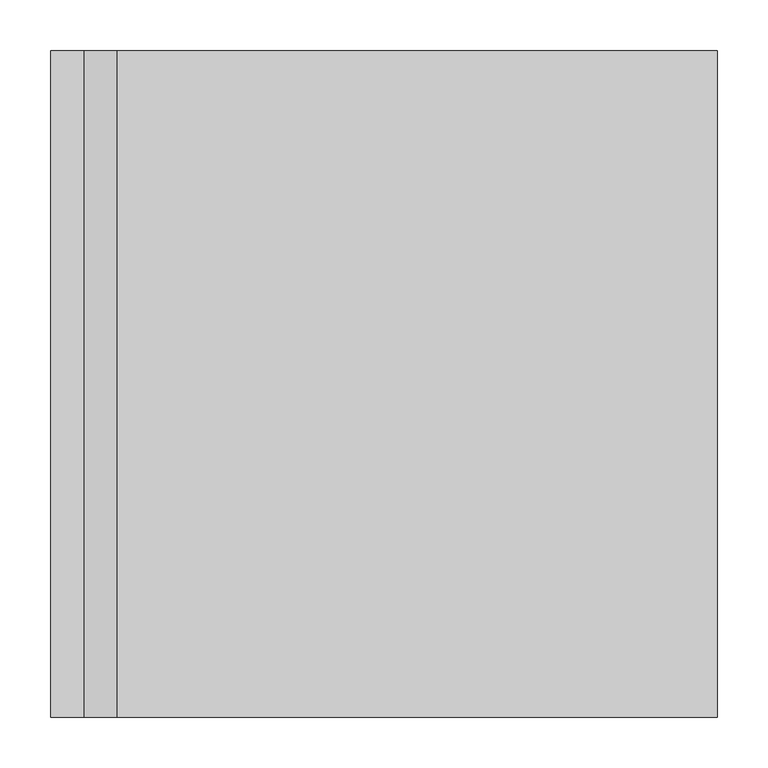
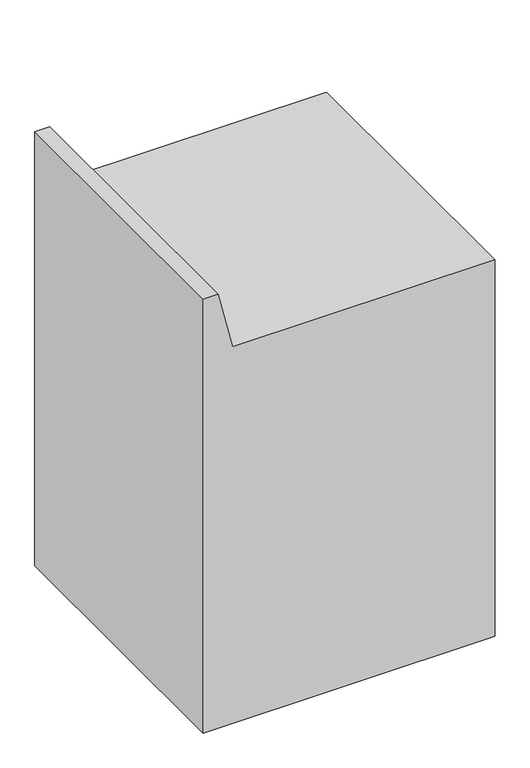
"""IFC4 building model written with IfcOpenShell, lengths in millimetres: flow terminal geometry, Lavadora CTE : 660 mm x 660 mm - Privado."""

from ifc_helpers import new_model, si_unit, frame, origin, place, context, project, spatial, polyline, outline, extrude, source, transform, mapped, element, save


def flow_terminal_59181b66(model_context):
    return source(origin(), model_context, "Body", "SweptSolid", [
        extrude(outline(polyline([(0.0, 660.0), (900.0, 660.0), (900.0, 65.88125), (1037.31875, 33.3375), (1037.31875, 0.0), (0.0, 0.0), (0.0, 660.0)])), frame((0.0, -330.0, 0.0), z_axis=(0.0, 1.0, 0.0), x_axis=(0.0, 0.0, 1.0)), (0.0, 0.0, 1.0), 660.0),
    ])


if __name__ == "__main__":
    model = new_model("IFC4")
    model_context = context("Model", 3, world=origin())
    ifc_project = project(units=[si_unit("LENGTHUNIT", "METRE", prefix="MILLI")], contexts=[model_context])
    site = spatial("IfcSite", under=ifc_project)
    building = spatial("IfcBuilding", under=site)
    placement = place(None, origin())
    flow_terminal_shape = flow_terminal_59181b66(model_context)
    element("IfcFlowTerminal", 1, ObjectType="Lavadora CTE : 660 mm x 660 mm - Privado", at=placement, inside=building, context=model_context, shape_type="MappedRepresentation", body=[
        mapped(flow_terminal_shape, transform((0.0, 0.0, 0.0), x_axis=(1.0, 0.0, 0.0), y_axis=(0.0, 1.0, 0.0), z_axis=(0.0, 0.0, 1.0))),
    ])
    save(model, "model.ifc")
